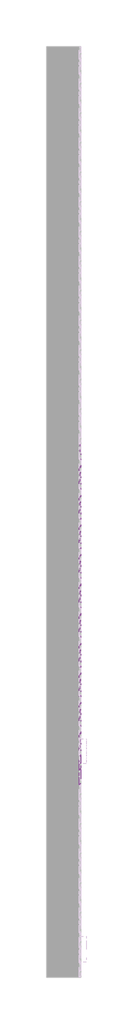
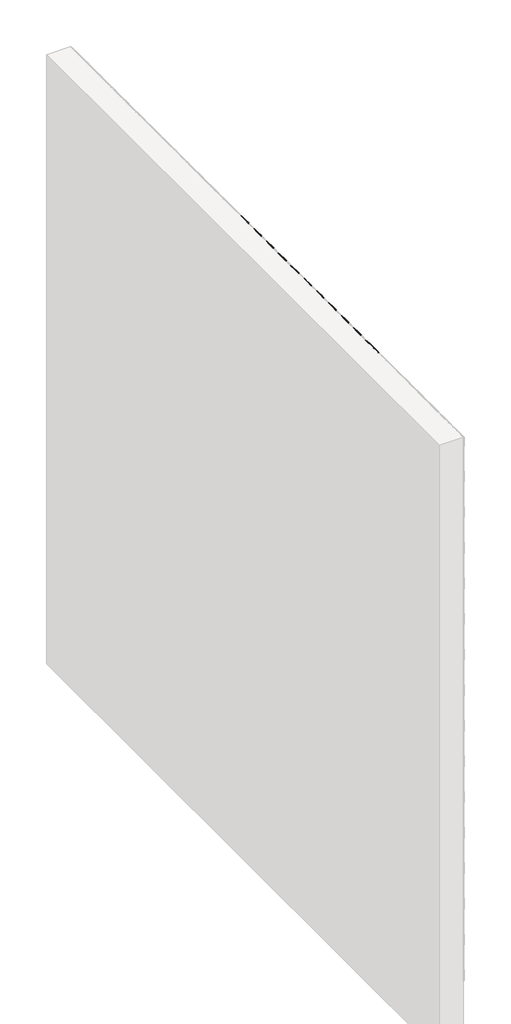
# One storey, part 61 of 121: 144 proxies.
"""IFC4 building model written with IfcOpenShell, lengths in millimetres."""

from ifc_helpers import new_model, si_unit, origin, place, context, project, spatial, transform, mapped, element, save
from components import generic_models_b2b2c5c1, generic_models_9bf73f6f, generic_models_5d175859, generic_models_65d4feed, generic_models_3c364290, generic_models_b652511d

model = new_model("IFC4")

# Units and contexts
model_context = context("Model", 3, world=origin())
ifc_project = project(units=[si_unit("LENGTHUNIT", "METRE", prefix="MILLI")], contexts=[model_context])

# Site, building, storey
site = spatial("IfcSite", under=ifc_project)
building = spatial("IfcBuilding", under=site)
storey = spatial("IfcBuildingStorey", under=building, Name="PORTOBELLO - SHOWROOM", Elevation=0.0)

# Proxies
placement = place(None, origin())
generic_models_shape = generic_models_b2b2c5c1(model_context)
element("IfcBuildingElementProxy", 1, Name="PBSHOP - CUBICA NUDE 4,8X8,3 : CUBICA NUDE - POSIÇÃO 01", ObjectType="PBSHOP - CUBICA NUDE 4,8X8,3 : CUBICA NUDE - POSIÇÃO 01", at=placement, inside=storey, context=model_context, shape_type="MappedRepresentation", body=[
    mapped(generic_models_shape, transform((150369.5341846, 7577.4582457, 2407.461318), x_axis=(0.0, 1.0, 0.0), y_axis=(0.0, 0.0, 1.0), z_axis=(1.0, 0.0, 0.0))),
])
element("IfcBuildingElementProxy", 2, Name="PBSHOP - CUBICA NUDE 4,8X8,3 : CUBICA NUDE - POSIÇÃO 01", ObjectType="PBSHOP - CUBICA NUDE 4,8X8,3 : CUBICA NUDE - POSIÇÃO 01", at=placement, inside=storey, context=model_context, shape_type="MappedRepresentation", body=[
    mapped(generic_models_shape, transform((150369.5341846, 7668.297515, 2407.461318), x_axis=(0.0, 1.0, 0.0), y_axis=(0.0, 0.0, 1.0), z_axis=(1.0, 0.0, 0.0))),
])
element("IfcBuildingElementProxy", 3, Name="PBSHOP - CUBICA NUDE 4,8X8,3 : CUBICA NUDE - POSIÇÃO 01", ObjectType="PBSHOP - CUBICA NUDE 4,8X8,3 : CUBICA NUDE - POSIÇÃO 01", at=placement, inside=storey, context=model_context, shape_type="MappedRepresentation", body=[
    mapped(generic_models_shape, transform((150369.5341846, 7759.1367842, 2407.461318), x_axis=(0.0, 1.0, 0.0), y_axis=(0.0, 0.0, 1.0), z_axis=(1.0, 0.0, 0.0))),
])
element("IfcBuildingElementProxy", 4, Name="PBSHOP - CUBICA NUDE 4,8X8,3 : CUBICA NUDE - POSIÇÃO 01", ObjectType="PBSHOP - CUBICA NUDE 4,8X8,3 : CUBICA NUDE - POSIÇÃO 01", at=placement, inside=storey, context=model_context, shape_type="MappedRepresentation", body=[
    mapped(generic_models_shape, transform((150369.5341846, 7849.9760535, 2407.461318), x_axis=(0.0, 1.0, 0.0), y_axis=(0.0, 0.0, 1.0), z_axis=(1.0, 0.0, 0.0))),
])
element("IfcBuildingElementProxy", 5, Name="PBSHOP - CUBICA NUDE 4,8X8,3 : CUBICA NUDE - POSIÇÃO 01", ObjectType="PBSHOP - CUBICA NUDE 4,8X8,3 : CUBICA NUDE - POSIÇÃO 01", at=placement, inside=storey, context=model_context, shape_type="MappedRepresentation", body=[
    mapped(generic_models_shape, transform((150369.5341846, 7940.8153227, 2407.461318), x_axis=(0.0, 1.0, 0.0), y_axis=(0.0, 0.0, 1.0), z_axis=(1.0, 0.0, 0.0))),
])
element("IfcBuildingElementProxy", 6, Name="PBSHOP - CUBICA NUDE 4,8X8,3 : CUBICA NUDE - POSIÇÃO 01", ObjectType="PBSHOP - CUBICA NUDE 4,8X8,3 : CUBICA NUDE - POSIÇÃO 01", at=placement, inside=storey, context=model_context, shape_type="MappedRepresentation", body=[
    mapped(generic_models_shape, transform((150369.5341846, 7077.8422649, 2486.3959564), x_axis=(0.0, 1.0, 0.0), y_axis=(0.0, 0.0, 1.0), z_axis=(1.0, 0.0, 0.0))),
])
element("IfcBuildingElementProxy", 7, Name="PBSHOP - CUBICA NUDE 4,8X8,3 : CUBICA NUDE - POSIÇÃO 01", ObjectType="PBSHOP - CUBICA NUDE 4,8X8,3 : CUBICA NUDE - POSIÇÃO 01", at=placement, inside=storey, context=model_context, shape_type="MappedRepresentation", body=[
    mapped(generic_models_shape, transform((150369.5341846, 7168.6815341, 2486.3959564), x_axis=(0.0, 1.0, 0.0), y_axis=(0.0, 0.0, 1.0), z_axis=(1.0, 0.0, 0.0))),
])
element("IfcBuildingElementProxy", 8, Name="PBSHOP - CUBICA NUDE 4,8X8,3 : CUBICA NUDE - POSIÇÃO 01", ObjectType="PBSHOP - CUBICA NUDE 4,8X8,3 : CUBICA NUDE - POSIÇÃO 01", at=placement, inside=storey, context=model_context, shape_type="MappedRepresentation", body=[
    mapped(generic_models_shape, transform((150369.5341846, 7259.5208034, 2486.3959564), x_axis=(0.0, 1.0, 0.0), y_axis=(0.0, 0.0, 1.0), z_axis=(1.0, 0.0, 0.0))),
])
element("IfcBuildingElementProxy", 9, Name="PBSHOP - CUBICA NUDE 4,8X8,3 : CUBICA NUDE - POSIÇÃO 01", ObjectType="PBSHOP - CUBICA NUDE 4,8X8,3 : CUBICA NUDE - POSIÇÃO 01", at=placement, inside=storey, context=model_context, shape_type="MappedRepresentation", body=[
    mapped(generic_models_shape, transform((150369.5341846, 7350.3600726, 2486.3959564), x_axis=(0.0, 1.0, 0.0), y_axis=(0.0, 0.0, 1.0), z_axis=(1.0, 0.0, 0.0))),
])
element("IfcBuildingElementProxy", 10, Name="PBSHOP - CUBICA NUDE 4,8X8,3 : CUBICA NUDE - POSIÇÃO 01", ObjectType="PBSHOP - CUBICA NUDE 4,8X8,3 : CUBICA NUDE - POSIÇÃO 01", at=placement, inside=storey, context=model_context, shape_type="MappedRepresentation", body=[
    mapped(generic_models_shape, transform((150369.5341846, 7441.1993419, 2486.3959564), x_axis=(0.0, 1.0, 0.0), y_axis=(0.0, 0.0, 1.0), z_axis=(1.0, 0.0, 0.0))),
])
element("IfcBuildingElementProxy", 11, Name="PBSHOP - CUBICA NUDE 4,8X8,3 : CUBICA NUDE - POSIÇÃO 01", ObjectType="PBSHOP - CUBICA NUDE 4,8X8,3 : CUBICA NUDE - POSIÇÃO 01", at=placement, inside=storey, context=model_context, shape_type="MappedRepresentation", body=[
    mapped(generic_models_shape, transform((150369.5341846, 7532.0386111, 2486.3959564), x_axis=(0.0, 1.0, 0.0), y_axis=(0.0, 0.0, 1.0), z_axis=(1.0, 0.0, 0.0))),
])
element("IfcBuildingElementProxy", 12, Name="PBSHOP - CUBICA NUDE 4,8X8,3 : CUBICA NUDE - POSIÇÃO 01", ObjectType="PBSHOP - CUBICA NUDE 4,8X8,3 : CUBICA NUDE - POSIÇÃO 01", at=placement, inside=storey, context=model_context, shape_type="MappedRepresentation", body=[
    mapped(generic_models_shape, transform((150369.5341846, 7622.8778804, 2486.3959564), x_axis=(0.0, 1.0, 0.0), y_axis=(0.0, 0.0, 1.0), z_axis=(1.0, 0.0, 0.0))),
])
element("IfcBuildingElementProxy", 13, Name="PBSHOP - CUBICA NUDE 4,8X8,3 : CUBICA NUDE - POSIÇÃO 01", ObjectType="PBSHOP - CUBICA NUDE 4,8X8,3 : CUBICA NUDE - POSIÇÃO 01", at=placement, inside=storey, context=model_context, shape_type="MappedRepresentation", body=[
    mapped(generic_models_shape, transform((150369.5341846, 7713.7171496, 2486.3959564), x_axis=(0.0, 1.0, 0.0), y_axis=(0.0, 0.0, 1.0), z_axis=(1.0, 0.0, 0.0))),
])
element("IfcBuildingElementProxy", 14, Name="PBSHOP - CUBICA NUDE 4,8X8,3 : CUBICA NUDE - POSIÇÃO 01", ObjectType="PBSHOP - CUBICA NUDE 4,8X8,3 : CUBICA NUDE - POSIÇÃO 01", at=placement, inside=storey, context=model_context, shape_type="MappedRepresentation", body=[
    mapped(generic_models_shape, transform((150369.5341846, 7804.5564189, 2486.3959564), x_axis=(0.0, 1.0, 0.0), y_axis=(0.0, 0.0, 1.0), z_axis=(1.0, 0.0, 0.0))),
])
element("IfcBuildingElementProxy", 15, Name="PBSHOP - CUBICA NUDE 4,8X8,3 : CUBICA NUDE - POSIÇÃO 01", ObjectType="PBSHOP - CUBICA NUDE 4,8X8,3 : CUBICA NUDE - POSIÇÃO 01", at=placement, inside=storey, context=model_context, shape_type="MappedRepresentation", body=[
    mapped(generic_models_shape, transform((150369.5341846, 7895.3956881, 2486.3959564), x_axis=(0.0, 1.0, 0.0), y_axis=(0.0, 0.0, 1.0), z_axis=(1.0, 0.0, 0.0))),
])
element("IfcBuildingElementProxy", 16, Name="PBSHOP - CUBICA NUDE 4,8X8,3 : CUBICA NUDE - POSIÇÃO 01", ObjectType="PBSHOP - CUBICA NUDE 4,8X8,3 : CUBICA NUDE - POSIÇÃO 01", at=placement, inside=storey, context=model_context, shape_type="MappedRepresentation", body=[
    mapped(generic_models_shape, transform((150369.5341846, 7986.2349573, 2486.3959564), x_axis=(0.0, 1.0, 0.0), y_axis=(0.0, 0.0, 1.0), z_axis=(1.0, 0.0, 0.0))),
])
element("IfcBuildingElementProxy", 17, Name="PBSHOP - CUBICA NUDE 4,8X8,3 : CUBICA NUDE - POSIÇÃO 01", ObjectType="PBSHOP - CUBICA NUDE 4,8X8,3 : CUBICA NUDE - POSIÇÃO 01", at=placement, inside=storey, context=model_context, shape_type="MappedRepresentation", body=[
    mapped(generic_models_shape, transform((150369.5341846, 7032.4226303, 2565.3305948), x_axis=(0.0, 1.0, 0.0), y_axis=(0.0, 0.0, 1.0), z_axis=(1.0, 0.0, 0.0))),
])
element("IfcBuildingElementProxy", 18, Name="PBSHOP - CUBICA NUDE 4,8X8,3 : CUBICA NUDE - POSIÇÃO 01", ObjectType="PBSHOP - CUBICA NUDE 4,8X8,3 : CUBICA NUDE - POSIÇÃO 01", at=placement, inside=storey, context=model_context, shape_type="MappedRepresentation", body=[
    mapped(generic_models_shape, transform((150369.5341846, 7123.2618995, 2565.3305948), x_axis=(0.0, 1.0, 0.0), y_axis=(0.0, 0.0, 1.0), z_axis=(1.0, 0.0, 0.0))),
])
element("IfcBuildingElementProxy", 19, Name="PBSHOP - CUBICA NUDE 4,8X8,3 : CUBICA NUDE - POSIÇÃO 01", ObjectType="PBSHOP - CUBICA NUDE 4,8X8,3 : CUBICA NUDE - POSIÇÃO 01", at=placement, inside=storey, context=model_context, shape_type="MappedRepresentation", body=[
    mapped(generic_models_shape, transform((150369.5341846, 7214.1011688, 2565.3305948), x_axis=(0.0, 1.0, 0.0), y_axis=(0.0, 0.0, 1.0), z_axis=(1.0, 0.0, 0.0))),
])
element("IfcBuildingElementProxy", 20, Name="PBSHOP - CUBICA NUDE 4,8X8,3 : CUBICA NUDE - POSIÇÃO 01", ObjectType="PBSHOP - CUBICA NUDE 4,8X8,3 : CUBICA NUDE - POSIÇÃO 01", at=placement, inside=storey, context=model_context, shape_type="MappedRepresentation", body=[
    mapped(generic_models_shape, transform((150369.5341846, 7304.940438, 2565.3305948), x_axis=(0.0, 1.0, 0.0), y_axis=(0.0, 0.0, 1.0), z_axis=(1.0, 0.0, 0.0))),
])
element("IfcBuildingElementProxy", 21, Name="PBSHOP - CUBICA NUDE 4,8X8,3 : CUBICA NUDE - POSIÇÃO 01", ObjectType="PBSHOP - CUBICA NUDE 4,8X8,3 : CUBICA NUDE - POSIÇÃO 01", at=placement, inside=storey, context=model_context, shape_type="MappedRepresentation", body=[
    mapped(generic_models_shape, transform((150369.5341846, 7395.7797073, 2565.3305948), x_axis=(0.0, 1.0, 0.0), y_axis=(0.0, 0.0, 1.0), z_axis=(1.0, 0.0, 0.0))),
])
element("IfcBuildingElementProxy", 22, Name="PBSHOP - CUBICA NUDE 4,8X8,3 : CUBICA NUDE - POSIÇÃO 01", ObjectType="PBSHOP - CUBICA NUDE 4,8X8,3 : CUBICA NUDE - POSIÇÃO 01", at=placement, inside=storey, context=model_context, shape_type="MappedRepresentation", body=[
    mapped(generic_models_shape, transform((150369.5341846, 7486.6189765, 2565.3305948), x_axis=(0.0, 1.0, 0.0), y_axis=(0.0, 0.0, 1.0), z_axis=(1.0, 0.0, 0.0))),
])
element("IfcBuildingElementProxy", 23, Name="PBSHOP - CUBICA NUDE 4,8X8,3 : CUBICA NUDE - POSIÇÃO 01", ObjectType="PBSHOP - CUBICA NUDE 4,8X8,3 : CUBICA NUDE - POSIÇÃO 01", at=placement, inside=storey, context=model_context, shape_type="MappedRepresentation", body=[
    mapped(generic_models_shape, transform((150369.5341846, 7577.4582457, 2565.3305948), x_axis=(0.0, 1.0, 0.0), y_axis=(0.0, 0.0, 1.0), z_axis=(1.0, 0.0, 0.0))),
])
element("IfcBuildingElementProxy", 24, Name="PBSHOP - CUBICA NUDE 4,8X8,3 : CUBICA NUDE - POSIÇÃO 01", ObjectType="PBSHOP - CUBICA NUDE 4,8X8,3 : CUBICA NUDE - POSIÇÃO 01", at=placement, inside=storey, context=model_context, shape_type="MappedRepresentation", body=[
    mapped(generic_models_shape, transform((150369.5341846, 7668.297515, 2565.3305948), x_axis=(0.0, 1.0, 0.0), y_axis=(0.0, 0.0, 1.0), z_axis=(1.0, 0.0, 0.0))),
])
element("IfcBuildingElementProxy", 25, Name="PBSHOP - CUBICA NUDE 4,8X8,3 : CUBICA NUDE - POSIÇÃO 01", ObjectType="PBSHOP - CUBICA NUDE 4,8X8,3 : CUBICA NUDE - POSIÇÃO 01", at=placement, inside=storey, context=model_context, shape_type="MappedRepresentation", body=[
    mapped(generic_models_shape, transform((150369.5341846, 7759.1367842, 2565.3305948), x_axis=(0.0, 1.0, 0.0), y_axis=(0.0, 0.0, 1.0), z_axis=(1.0, 0.0, 0.0))),
])
element("IfcBuildingElementProxy", 26, Name="PBSHOP - CUBICA NUDE 4,8X8,3 : CUBICA NUDE - POSIÇÃO 01", ObjectType="PBSHOP - CUBICA NUDE 4,8X8,3 : CUBICA NUDE - POSIÇÃO 01", at=placement, inside=storey, context=model_context, shape_type="MappedRepresentation", body=[
    mapped(generic_models_shape, transform((150369.5341846, 7849.9760535, 2565.3305948), x_axis=(0.0, 1.0, 0.0), y_axis=(0.0, 0.0, 1.0), z_axis=(1.0, 0.0, 0.0))),
])
element("IfcBuildingElementProxy", 27, Name="PBSHOP - CUBICA NUDE 4,8X8,3 : CUBICA NUDE - POSIÇÃO 01", ObjectType="PBSHOP - CUBICA NUDE 4,8X8,3 : CUBICA NUDE - POSIÇÃO 01", at=placement, inside=storey, context=model_context, shape_type="MappedRepresentation", body=[
    mapped(generic_models_shape, transform((150369.5341846, 7940.8153227, 2565.3305948), x_axis=(0.0, 1.0, 0.0), y_axis=(0.0, 0.0, 1.0), z_axis=(1.0, 0.0, 0.0))),
])
element("IfcBuildingElementProxy", 28, Name="PBSHOP - CUBICA NUDE 4,8X8,3 : CUBICA NUDE - POSIÇÃO 01", ObjectType="PBSHOP - CUBICA NUDE 4,8X8,3 : CUBICA NUDE - POSIÇÃO 01", at=placement, inside=storey, context=model_context, shape_type="MappedRepresentation", body=[
    mapped(generic_models_shape, transform((150369.5341846, 7077.8422649, 2644.2652332), x_axis=(0.0, 1.0, 0.0), y_axis=(0.0, 0.0, 1.0), z_axis=(1.0, 0.0, 0.0))),
])
element("IfcBuildingElementProxy", 29, Name="PBSHOP - CUBICA NUDE 4,8X8,3 : CUBICA NUDE - POSIÇÃO 01", ObjectType="PBSHOP - CUBICA NUDE 4,8X8,3 : CUBICA NUDE - POSIÇÃO 01", at=placement, inside=storey, context=model_context, shape_type="MappedRepresentation", body=[
    mapped(generic_models_shape, transform((150369.5341846, 7168.6815341, 2644.2652332), x_axis=(0.0, 1.0, 0.0), y_axis=(0.0, 0.0, 1.0), z_axis=(1.0, 0.0, 0.0))),
])
element("IfcBuildingElementProxy", 30, Name="PBSHOP - CUBICA NUDE 4,8X8,3 : CUBICA NUDE - POSIÇÃO 01", ObjectType="PBSHOP - CUBICA NUDE 4,8X8,3 : CUBICA NUDE - POSIÇÃO 01", at=placement, inside=storey, context=model_context, shape_type="MappedRepresentation", body=[
    mapped(generic_models_shape, transform((150369.5341846, 7259.5208034, 2644.2652332), x_axis=(0.0, 1.0, 0.0), y_axis=(0.0, 0.0, 1.0), z_axis=(1.0, 0.0, 0.0))),
])
element("IfcBuildingElementProxy", 31, Name="PBSHOP - CUBICA NUDE 4,8X8,3 : CUBICA NUDE - POSIÇÃO 01", ObjectType="PBSHOP - CUBICA NUDE 4,8X8,3 : CUBICA NUDE - POSIÇÃO 01", at=placement, inside=storey, context=model_context, shape_type="MappedRepresentation", body=[
    mapped(generic_models_shape, transform((150369.5341846, 7350.3600726, 2644.2652332), x_axis=(0.0, 1.0, 0.0), y_axis=(0.0, 0.0, 1.0), z_axis=(1.0, 0.0, 0.0))),
])
element("IfcBuildingElementProxy", 32, Name="PBSHOP - CUBICA NUDE 4,8X8,3 : CUBICA NUDE - POSIÇÃO 01", ObjectType="PBSHOP - CUBICA NUDE 4,8X8,3 : CUBICA NUDE - POSIÇÃO 01", at=placement, inside=storey, context=model_context, shape_type="MappedRepresentation", body=[
    mapped(generic_models_shape, transform((150369.5341846, 7441.1993419, 2644.2652332), x_axis=(0.0, 1.0, 0.0), y_axis=(0.0, 0.0, 1.0), z_axis=(1.0, 0.0, 0.0))),
])
element("IfcBuildingElementProxy", 33, Name="PBSHOP - CUBICA NUDE 4,8X8,3 : CUBICA NUDE - POSIÇÃO 01", ObjectType="PBSHOP - CUBICA NUDE 4,8X8,3 : CUBICA NUDE - POSIÇÃO 01", at=placement, inside=storey, context=model_context, shape_type="MappedRepresentation", body=[
    mapped(generic_models_shape, transform((150369.5341846, 7532.0386111, 2644.2652332), x_axis=(0.0, 1.0, 0.0), y_axis=(0.0, 0.0, 1.0), z_axis=(1.0, 0.0, 0.0))),
])
element("IfcBuildingElementProxy", 34, Name="PBSHOP - CUBICA NUDE 4,8X8,3 : CUBICA NUDE - POSIÇÃO 01", ObjectType="PBSHOP - CUBICA NUDE 4,8X8,3 : CUBICA NUDE - POSIÇÃO 01", at=placement, inside=storey, context=model_context, shape_type="MappedRepresentation", body=[
    mapped(generic_models_shape, transform((150369.5341846, 7622.8778804, 2644.2652332), x_axis=(0.0, 1.0, 0.0), y_axis=(0.0, 0.0, 1.0), z_axis=(1.0, 0.0, 0.0))),
])
element("IfcBuildingElementProxy", 35, Name="PBSHOP - CUBICA NUDE 4,8X8,3 : CUBICA NUDE - POSIÇÃO 01", ObjectType="PBSHOP - CUBICA NUDE 4,8X8,3 : CUBICA NUDE - POSIÇÃO 01", at=placement, inside=storey, context=model_context, shape_type="MappedRepresentation", body=[
    mapped(generic_models_shape, transform((150369.5341846, 7713.7171496, 2644.2652332), x_axis=(0.0, 1.0, 0.0), y_axis=(0.0, 0.0, 1.0), z_axis=(1.0, 0.0, 0.0))),
])
element("IfcBuildingElementProxy", 36, Name="PBSHOP - CUBICA NUDE 4,8X8,3 : CUBICA NUDE - POSIÇÃO 01", ObjectType="PBSHOP - CUBICA NUDE 4,8X8,3 : CUBICA NUDE - POSIÇÃO 01", at=placement, inside=storey, context=model_context, shape_type="MappedRepresentation", body=[
    mapped(generic_models_shape, transform((150369.5341846, 7804.5564189, 2644.2652332), x_axis=(0.0, 1.0, 0.0), y_axis=(0.0, 0.0, 1.0), z_axis=(1.0, 0.0, 0.0))),
])
element("IfcBuildingElementProxy", 37, Name="PBSHOP - CUBICA NUDE 4,8X8,3 : CUBICA NUDE - POSIÇÃO 01", ObjectType="PBSHOP - CUBICA NUDE 4,8X8,3 : CUBICA NUDE - POSIÇÃO 01", at=placement, inside=storey, context=model_context, shape_type="MappedRepresentation", body=[
    mapped(generic_models_shape, transform((150369.5341846, 7895.3956881, 2644.2652332), x_axis=(0.0, 1.0, 0.0), y_axis=(0.0, 0.0, 1.0), z_axis=(1.0, 0.0, 0.0))),
])
element("IfcBuildingElementProxy", 38, Name="PBSHOP - CUBICA NUDE 4,8X8,3 : CUBICA NUDE - POSIÇÃO 01", ObjectType="PBSHOP - CUBICA NUDE 4,8X8,3 : CUBICA NUDE - POSIÇÃO 01", at=placement, inside=storey, context=model_context, shape_type="MappedRepresentation", body=[
    mapped(generic_models_shape, transform((150369.5341846, 7986.2349573, 2644.2652332), x_axis=(0.0, 1.0, 0.0), y_axis=(0.0, 0.0, 1.0), z_axis=(1.0, 0.0, 0.0))),
])
generic_models_2_shape = generic_models_9bf73f6f(model_context)
element("IfcBuildingElementProxy", 39, Name="PBSHOP - CUBICA NUDE 4,8X8,3 : CUBICA NUDE - POSIÇÃO 03", ObjectType="PBSHOP - CUBICA NUDE 4,8X8,3 : CUBICA NUDE - POSIÇÃO 03", at=placement, inside=storey, context=model_context, shape_type="MappedRepresentation", body=[
    mapped(generic_models_2_shape, transform((150369.5341846, 7009.7149721, 2367.9527884), x_axis=(0.0, 1.0, 0.0), y_axis=(0.0, 0.0, 1.0), z_axis=(1.0, 0.0, 0.0))),
])
element("IfcBuildingElementProxy", 40, Name="PBSHOP - CUBICA NUDE 4,8X8,3 : CUBICA NUDE - POSIÇÃO 03", ObjectType="PBSHOP - CUBICA NUDE 4,8X8,3 : CUBICA NUDE - POSIÇÃO 03", at=placement, inside=storey, context=model_context, shape_type="MappedRepresentation", body=[
    mapped(generic_models_2_shape, transform((150369.5341846, 7100.5542414, 2367.9527884), x_axis=(0.0, 1.0, 0.0), y_axis=(0.0, 0.0, 1.0), z_axis=(1.0, 0.0, 0.0))),
])
element("IfcBuildingElementProxy", 41, Name="PBSHOP - CUBICA NUDE 4,8X8,3 : CUBICA NUDE - POSIÇÃO 03", ObjectType="PBSHOP - CUBICA NUDE 4,8X8,3 : CUBICA NUDE - POSIÇÃO 03", at=placement, inside=storey, context=model_context, shape_type="MappedRepresentation", body=[
    mapped(generic_models_2_shape, transform((150369.5341846, 7191.3935106, 2367.9527884), x_axis=(0.0, 1.0, 0.0), y_axis=(0.0, 0.0, 1.0), z_axis=(1.0, 0.0, 0.0))),
])
element("IfcBuildingElementProxy", 42, Name="PBSHOP - CUBICA NUDE 4,8X8,3 : CUBICA NUDE - POSIÇÃO 03", ObjectType="PBSHOP - CUBICA NUDE 4,8X8,3 : CUBICA NUDE - POSIÇÃO 03", at=placement, inside=storey, context=model_context, shape_type="MappedRepresentation", body=[
    mapped(generic_models_2_shape, transform((150369.5341846, 7282.2327799, 2367.9527884), x_axis=(0.0, 1.0, 0.0), y_axis=(0.0, 0.0, 1.0), z_axis=(1.0, 0.0, 0.0))),
])
element("IfcBuildingElementProxy", 43, Name="PBSHOP - CUBICA NUDE 4,8X8,3 : CUBICA NUDE - POSIÇÃO 03", ObjectType="PBSHOP - CUBICA NUDE 4,8X8,3 : CUBICA NUDE - POSIÇÃO 03", at=placement, inside=storey, context=model_context, shape_type="MappedRepresentation", body=[
    mapped(generic_models_2_shape, transform((150369.5341846, 7373.0720491, 2367.9527884), x_axis=(0.0, 1.0, 0.0), y_axis=(0.0, 0.0, 1.0), z_axis=(1.0, 0.0, 0.0))),
])
element("IfcBuildingElementProxy", 44, Name="PBSHOP - CUBICA NUDE 4,8X8,3 : CUBICA NUDE - POSIÇÃO 03", ObjectType="PBSHOP - CUBICA NUDE 4,8X8,3 : CUBICA NUDE - POSIÇÃO 03", at=placement, inside=storey, context=model_context, shape_type="MappedRepresentation", body=[
    mapped(generic_models_2_shape, transform((150369.5341846, 7463.9113184, 2367.9527884), x_axis=(0.0, 1.0, 0.0), y_axis=(0.0, 0.0, 1.0), z_axis=(1.0, 0.0, 0.0))),
])
element("IfcBuildingElementProxy", 45, Name="PBSHOP - CUBICA NUDE 4,8X8,3 : CUBICA NUDE - POSIÇÃO 03", ObjectType="PBSHOP - CUBICA NUDE 4,8X8,3 : CUBICA NUDE - POSIÇÃO 03", at=placement, inside=storey, context=model_context, shape_type="MappedRepresentation", body=[
    mapped(generic_models_2_shape, transform((150369.5341846, 7554.7505876, 2367.9527884), x_axis=(0.0, 1.0, 0.0), y_axis=(0.0, 0.0, 1.0), z_axis=(1.0, 0.0, 0.0))),
])
element("IfcBuildingElementProxy", 46, Name="PBSHOP - CUBICA NUDE 4,8X8,3 : CUBICA NUDE - POSIÇÃO 03", ObjectType="PBSHOP - CUBICA NUDE 4,8X8,3 : CUBICA NUDE - POSIÇÃO 03", at=placement, inside=storey, context=model_context, shape_type="MappedRepresentation", body=[
    mapped(generic_models_2_shape, transform((150369.5341846, 7645.5898568, 2367.9527884), x_axis=(0.0, 1.0, 0.0), y_axis=(0.0, 0.0, 1.0), z_axis=(1.0, 0.0, 0.0))),
])
element("IfcBuildingElementProxy", 47, Name="PBSHOP - CUBICA NUDE 4,8X8,3 : CUBICA NUDE - POSIÇÃO 03", ObjectType="PBSHOP - CUBICA NUDE 4,8X8,3 : CUBICA NUDE - POSIÇÃO 03", at=placement, inside=storey, context=model_context, shape_type="MappedRepresentation", body=[
    mapped(generic_models_2_shape, transform((150369.5341846, 7736.4291261, 2367.9527884), x_axis=(0.0, 1.0, 0.0), y_axis=(0.0, 0.0, 1.0), z_axis=(1.0, 0.0, 0.0))),
])
element("IfcBuildingElementProxy", 48, Name="PBSHOP - CUBICA NUDE 4,8X8,3 : CUBICA NUDE - POSIÇÃO 03", ObjectType="PBSHOP - CUBICA NUDE 4,8X8,3 : CUBICA NUDE - POSIÇÃO 03", at=placement, inside=storey, context=model_context, shape_type="MappedRepresentation", body=[
    mapped(generic_models_2_shape, transform((150369.5341846, 7827.2683953, 2367.9527884), x_axis=(0.0, 1.0, 0.0), y_axis=(0.0, 0.0, 1.0), z_axis=(1.0, 0.0, 0.0))),
])
element("IfcBuildingElementProxy", 49, Name="PBSHOP - CUBICA NUDE 4,8X8,3 : CUBICA NUDE - POSIÇÃO 03", ObjectType="PBSHOP - CUBICA NUDE 4,8X8,3 : CUBICA NUDE - POSIÇÃO 03", at=placement, inside=storey, context=model_context, shape_type="MappedRepresentation", body=[
    mapped(generic_models_2_shape, transform((150369.5341846, 7918.1076646, 2367.9527884), x_axis=(0.0, 1.0, 0.0), y_axis=(0.0, 0.0, 1.0), z_axis=(1.0, 0.0, 0.0))),
])
element("IfcBuildingElementProxy", 50, Name="PBSHOP - CUBICA NUDE 4,8X8,3 : CUBICA NUDE - POSIÇÃO 03", ObjectType="PBSHOP - CUBICA NUDE 4,8X8,3 : CUBICA NUDE - POSIÇÃO 03", at=placement, inside=storey, context=model_context, shape_type="MappedRepresentation", body=[
    mapped(generic_models_2_shape, transform((150369.5341846, 7055.1346068, 2446.8874268), x_axis=(0.0, 1.0, 0.0), y_axis=(0.0, 0.0, 1.0), z_axis=(1.0, 0.0, 0.0))),
])
element("IfcBuildingElementProxy", 51, Name="PBSHOP - CUBICA NUDE 4,8X8,3 : CUBICA NUDE - POSIÇÃO 03", ObjectType="PBSHOP - CUBICA NUDE 4,8X8,3 : CUBICA NUDE - POSIÇÃO 03", at=placement, inside=storey, context=model_context, shape_type="MappedRepresentation", body=[
    mapped(generic_models_2_shape, transform((150369.5341846, 7145.973876, 2446.8874268), x_axis=(0.0, 1.0, 0.0), y_axis=(0.0, 0.0, 1.0), z_axis=(1.0, 0.0, 0.0))),
])
element("IfcBuildingElementProxy", 52, Name="PBSHOP - CUBICA NUDE 4,8X8,3 : CUBICA NUDE - POSIÇÃO 03", ObjectType="PBSHOP - CUBICA NUDE 4,8X8,3 : CUBICA NUDE - POSIÇÃO 03", at=placement, inside=storey, context=model_context, shape_type="MappedRepresentation", body=[
    mapped(generic_models_2_shape, transform((150369.5341846, 7236.8131452, 2446.8874268), x_axis=(0.0, 1.0, 0.0), y_axis=(0.0, 0.0, 1.0), z_axis=(1.0, 0.0, 0.0))),
])
element("IfcBuildingElementProxy", 53, Name="PBSHOP - CUBICA NUDE 4,8X8,3 : CUBICA NUDE - POSIÇÃO 03", ObjectType="PBSHOP - CUBICA NUDE 4,8X8,3 : CUBICA NUDE - POSIÇÃO 03", at=placement, inside=storey, context=model_context, shape_type="MappedRepresentation", body=[
    mapped(generic_models_2_shape, transform((150369.5341846, 7327.6524145, 2446.8874268), x_axis=(0.0, 1.0, 0.0), y_axis=(0.0, 0.0, 1.0), z_axis=(1.0, 0.0, 0.0))),
])
element("IfcBuildingElementProxy", 54, Name="PBSHOP - CUBICA NUDE 4,8X8,3 : CUBICA NUDE - POSIÇÃO 03", ObjectType="PBSHOP - CUBICA NUDE 4,8X8,3 : CUBICA NUDE - POSIÇÃO 03", at=placement, inside=storey, context=model_context, shape_type="MappedRepresentation", body=[
    mapped(generic_models_2_shape, transform((150369.5341846, 7418.4916837, 2446.8874268), x_axis=(0.0, 1.0, 0.0), y_axis=(0.0, 0.0, 1.0), z_axis=(1.0, 0.0, 0.0))),
])
element("IfcBuildingElementProxy", 55, Name="PBSHOP - CUBICA NUDE 4,8X8,3 : CUBICA NUDE - POSIÇÃO 03", ObjectType="PBSHOP - CUBICA NUDE 4,8X8,3 : CUBICA NUDE - POSIÇÃO 03", at=placement, inside=storey, context=model_context, shape_type="MappedRepresentation", body=[
    mapped(generic_models_2_shape, transform((150369.5341846, 7509.330953, 2446.8874268), x_axis=(0.0, 1.0, 0.0), y_axis=(0.0, 0.0, 1.0), z_axis=(1.0, 0.0, 0.0))),
])
element("IfcBuildingElementProxy", 56, Name="PBSHOP - CUBICA NUDE 4,8X8,3 : CUBICA NUDE - POSIÇÃO 03", ObjectType="PBSHOP - CUBICA NUDE 4,8X8,3 : CUBICA NUDE - POSIÇÃO 03", at=placement, inside=storey, context=model_context, shape_type="MappedRepresentation", body=[
    mapped(generic_models_2_shape, transform((150369.5341846, 7600.1702222, 2446.8874268), x_axis=(0.0, 1.0, 0.0), y_axis=(0.0, 0.0, 1.0), z_axis=(1.0, 0.0, 0.0))),
])
element("IfcBuildingElementProxy", 57, Name="PBSHOP - CUBICA NUDE 4,8X8,3 : CUBICA NUDE - POSIÇÃO 03", ObjectType="PBSHOP - CUBICA NUDE 4,8X8,3 : CUBICA NUDE - POSIÇÃO 03", at=placement, inside=storey, context=model_context, shape_type="MappedRepresentation", body=[
    mapped(generic_models_2_shape, transform((150369.5341846, 7691.0094915, 2446.8874268), x_axis=(0.0, 1.0, 0.0), y_axis=(0.0, 0.0, 1.0), z_axis=(1.0, 0.0, 0.0))),
])
element("IfcBuildingElementProxy", 58, Name="PBSHOP - CUBICA NUDE 4,8X8,3 : CUBICA NUDE - POSIÇÃO 03", ObjectType="PBSHOP - CUBICA NUDE 4,8X8,3 : CUBICA NUDE - POSIÇÃO 03", at=placement, inside=storey, context=model_context, shape_type="MappedRepresentation", body=[
    mapped(generic_models_2_shape, transform((150369.5341846, 7781.8487607, 2446.8874268), x_axis=(0.0, 1.0, 0.0), y_axis=(0.0, 0.0, 1.0), z_axis=(1.0, 0.0, 0.0))),
])
element("IfcBuildingElementProxy", 59, Name="PBSHOP - CUBICA NUDE 4,8X8,3 : CUBICA NUDE - POSIÇÃO 03", ObjectType="PBSHOP - CUBICA NUDE 4,8X8,3 : CUBICA NUDE - POSIÇÃO 03", at=placement, inside=storey, context=model_context, shape_type="MappedRepresentation", body=[
    mapped(generic_models_2_shape, transform((150369.5341846, 7872.6880299, 2446.8874268), x_axis=(0.0, 1.0, 0.0), y_axis=(0.0, 0.0, 1.0), z_axis=(1.0, 0.0, 0.0))),
])
element("IfcBuildingElementProxy", 60, Name="PBSHOP - CUBICA NUDE 4,8X8,3 : CUBICA NUDE - POSIÇÃO 03", ObjectType="PBSHOP - CUBICA NUDE 4,8X8,3 : CUBICA NUDE - POSIÇÃO 03", at=placement, inside=storey, context=model_context, shape_type="MappedRepresentation", body=[
    mapped(generic_models_2_shape, transform((150369.5341846, 7963.5272992, 2446.8874268), x_axis=(0.0, 1.0, 0.0), y_axis=(0.0, 0.0, 1.0), z_axis=(1.0, 0.0, 0.0))),
])
element("IfcBuildingElementProxy", 61, Name="PBSHOP - CUBICA NUDE 4,8X8,3 : CUBICA NUDE - POSIÇÃO 03", ObjectType="PBSHOP - CUBICA NUDE 4,8X8,3 : CUBICA NUDE - POSIÇÃO 03", at=placement, inside=storey, context=model_context, shape_type="MappedRepresentation", body=[
    mapped(generic_models_2_shape, transform((150369.5341846, 7009.7149721, 2525.8220652), x_axis=(0.0, 1.0, 0.0), y_axis=(0.0, 0.0, 1.0), z_axis=(1.0, 0.0, 0.0))),
])
element("IfcBuildingElementProxy", 62, Name="PBSHOP - CUBICA NUDE 4,8X8,3 : CUBICA NUDE - POSIÇÃO 03", ObjectType="PBSHOP - CUBICA NUDE 4,8X8,3 : CUBICA NUDE - POSIÇÃO 03", at=placement, inside=storey, context=model_context, shape_type="MappedRepresentation", body=[
    mapped(generic_models_2_shape, transform((150369.5341846, 7100.5542414, 2525.8220652), x_axis=(0.0, 1.0, 0.0), y_axis=(0.0, 0.0, 1.0), z_axis=(1.0, 0.0, 0.0))),
])
element("IfcBuildingElementProxy", 63, Name="PBSHOP - CUBICA NUDE 4,8X8,3 : CUBICA NUDE - POSIÇÃO 03", ObjectType="PBSHOP - CUBICA NUDE 4,8X8,3 : CUBICA NUDE - POSIÇÃO 03", at=placement, inside=storey, context=model_context, shape_type="MappedRepresentation", body=[
    mapped(generic_models_2_shape, transform((150369.5341846, 7191.3935106, 2525.8220652), x_axis=(0.0, 1.0, 0.0), y_axis=(0.0, 0.0, 1.0), z_axis=(1.0, 0.0, 0.0))),
])
element("IfcBuildingElementProxy", 64, Name="PBSHOP - CUBICA NUDE 4,8X8,3 : CUBICA NUDE - POSIÇÃO 03", ObjectType="PBSHOP - CUBICA NUDE 4,8X8,3 : CUBICA NUDE - POSIÇÃO 03", at=placement, inside=storey, context=model_context, shape_type="MappedRepresentation", body=[
    mapped(generic_models_2_shape, transform((150369.5341846, 7282.2327799, 2525.8220652), x_axis=(0.0, 1.0, 0.0), y_axis=(0.0, 0.0, 1.0), z_axis=(1.0, 0.0, 0.0))),
])
element("IfcBuildingElementProxy", 65, Name="PBSHOP - CUBICA NUDE 4,8X8,3 : CUBICA NUDE - POSIÇÃO 03", ObjectType="PBSHOP - CUBICA NUDE 4,8X8,3 : CUBICA NUDE - POSIÇÃO 03", at=placement, inside=storey, context=model_context, shape_type="MappedRepresentation", body=[
    mapped(generic_models_2_shape, transform((150369.5341846, 7373.0720491, 2525.8220652), x_axis=(0.0, 1.0, 0.0), y_axis=(0.0, 0.0, 1.0), z_axis=(1.0, 0.0, 0.0))),
])
element("IfcBuildingElementProxy", 66, Name="PBSHOP - CUBICA NUDE 4,8X8,3 : CUBICA NUDE - POSIÇÃO 03", ObjectType="PBSHOP - CUBICA NUDE 4,8X8,3 : CUBICA NUDE - POSIÇÃO 03", at=placement, inside=storey, context=model_context, shape_type="MappedRepresentation", body=[
    mapped(generic_models_2_shape, transform((150369.5341846, 7463.9113184, 2525.8220652), x_axis=(0.0, 1.0, 0.0), y_axis=(0.0, 0.0, 1.0), z_axis=(1.0, 0.0, 0.0))),
])
element("IfcBuildingElementProxy", 67, Name="PBSHOP - CUBICA NUDE 4,8X8,3 : CUBICA NUDE - POSIÇÃO 03", ObjectType="PBSHOP - CUBICA NUDE 4,8X8,3 : CUBICA NUDE - POSIÇÃO 03", at=placement, inside=storey, context=model_context, shape_type="MappedRepresentation", body=[
    mapped(generic_models_2_shape, transform((150369.5341846, 7554.7505876, 2525.8220652), x_axis=(0.0, 1.0, 0.0), y_axis=(0.0, 0.0, 1.0), z_axis=(1.0, 0.0, 0.0))),
])
element("IfcBuildingElementProxy", 68, Name="PBSHOP - CUBICA NUDE 4,8X8,3 : CUBICA NUDE - POSIÇÃO 03", ObjectType="PBSHOP - CUBICA NUDE 4,8X8,3 : CUBICA NUDE - POSIÇÃO 03", at=placement, inside=storey, context=model_context, shape_type="MappedRepresentation", body=[
    mapped(generic_models_2_shape, transform((150369.5341846, 7645.5898568, 2525.8220652), x_axis=(0.0, 1.0, 0.0), y_axis=(0.0, 0.0, 1.0), z_axis=(1.0, 0.0, 0.0))),
])
element("IfcBuildingElementProxy", 69, Name="PBSHOP - CUBICA NUDE 4,8X8,3 : CUBICA NUDE - POSIÇÃO 03", ObjectType="PBSHOP - CUBICA NUDE 4,8X8,3 : CUBICA NUDE - POSIÇÃO 03", at=placement, inside=storey, context=model_context, shape_type="MappedRepresentation", body=[
    mapped(generic_models_2_shape, transform((150369.5341846, 7736.4291261, 2525.8220652), x_axis=(0.0, 1.0, 0.0), y_axis=(0.0, 0.0, 1.0), z_axis=(1.0, 0.0, 0.0))),
])
element("IfcBuildingElementProxy", 70, Name="PBSHOP - CUBICA NUDE 4,8X8,3 : CUBICA NUDE - POSIÇÃO 03", ObjectType="PBSHOP - CUBICA NUDE 4,8X8,3 : CUBICA NUDE - POSIÇÃO 03", at=placement, inside=storey, context=model_context, shape_type="MappedRepresentation", body=[
    mapped(generic_models_2_shape, transform((150369.5341846, 7827.2683953, 2525.8220652), x_axis=(0.0, 1.0, 0.0), y_axis=(0.0, 0.0, 1.0), z_axis=(1.0, 0.0, 0.0))),
])
element("IfcBuildingElementProxy", 71, Name="PBSHOP - CUBICA NUDE 4,8X8,3 : CUBICA NUDE - POSIÇÃO 03", ObjectType="PBSHOP - CUBICA NUDE 4,8X8,3 : CUBICA NUDE - POSIÇÃO 03", at=placement, inside=storey, context=model_context, shape_type="MappedRepresentation", body=[
    mapped(generic_models_2_shape, transform((150369.5341846, 7918.1076646, 2525.8220652), x_axis=(0.0, 1.0, 0.0), y_axis=(0.0, 0.0, 1.0), z_axis=(1.0, 0.0, 0.0))),
])
element("IfcBuildingElementProxy", 72, Name="PBSHOP - CUBICA NUDE 4,8X8,3 : CUBICA NUDE - POSIÇÃO 03", ObjectType="PBSHOP - CUBICA NUDE 4,8X8,3 : CUBICA NUDE - POSIÇÃO 03", at=placement, inside=storey, context=model_context, shape_type="MappedRepresentation", body=[
    mapped(generic_models_2_shape, transform((150369.5341846, 7055.1346068, 2604.7567035), x_axis=(0.0, 1.0, 0.0), y_axis=(0.0, 0.0, 1.0), z_axis=(1.0, 0.0, 0.0))),
])
element("IfcBuildingElementProxy", 73, Name="PBSHOP - CUBICA NUDE 4,8X8,3 : CUBICA NUDE - POSIÇÃO 03", ObjectType="PBSHOP - CUBICA NUDE 4,8X8,3 : CUBICA NUDE - POSIÇÃO 03", at=placement, inside=storey, context=model_context, shape_type="MappedRepresentation", body=[
    mapped(generic_models_2_shape, transform((150369.5341846, 7145.973876, 2604.7567035), x_axis=(0.0, 1.0, 0.0), y_axis=(0.0, 0.0, 1.0), z_axis=(1.0, 0.0, 0.0))),
])
element("IfcBuildingElementProxy", 74, Name="PBSHOP - CUBICA NUDE 4,8X8,3 : CUBICA NUDE - POSIÇÃO 03", ObjectType="PBSHOP - CUBICA NUDE 4,8X8,3 : CUBICA NUDE - POSIÇÃO 03", at=placement, inside=storey, context=model_context, shape_type="MappedRepresentation", body=[
    mapped(generic_models_2_shape, transform((150369.5341846, 7236.8131452, 2604.7567035), x_axis=(0.0, 1.0, 0.0), y_axis=(0.0, 0.0, 1.0), z_axis=(1.0, 0.0, 0.0))),
])
element("IfcBuildingElementProxy", 75, Name="PBSHOP - CUBICA NUDE 4,8X8,3 : CUBICA NUDE - POSIÇÃO 03", ObjectType="PBSHOP - CUBICA NUDE 4,8X8,3 : CUBICA NUDE - POSIÇÃO 03", at=placement, inside=storey, context=model_context, shape_type="MappedRepresentation", body=[
    mapped(generic_models_2_shape, transform((150369.5341846, 7327.6524145, 2604.7567035), x_axis=(0.0, 1.0, 0.0), y_axis=(0.0, 0.0, 1.0), z_axis=(1.0, 0.0, 0.0))),
])
element("IfcBuildingElementProxy", 76, Name="PBSHOP - CUBICA NUDE 4,8X8,3 : CUBICA NUDE - POSIÇÃO 03", ObjectType="PBSHOP - CUBICA NUDE 4,8X8,3 : CUBICA NUDE - POSIÇÃO 03", at=placement, inside=storey, context=model_context, shape_type="MappedRepresentation", body=[
    mapped(generic_models_2_shape, transform((150369.5341846, 7418.4916837, 2604.7567035), x_axis=(0.0, 1.0, 0.0), y_axis=(0.0, 0.0, 1.0), z_axis=(1.0, 0.0, 0.0))),
])
element("IfcBuildingElementProxy", 77, Name="PBSHOP - CUBICA NUDE 4,8X8,3 : CUBICA NUDE - POSIÇÃO 03", ObjectType="PBSHOP - CUBICA NUDE 4,8X8,3 : CUBICA NUDE - POSIÇÃO 03", at=placement, inside=storey, context=model_context, shape_type="MappedRepresentation", body=[
    mapped(generic_models_2_shape, transform((150369.5341846, 7509.330953, 2604.7567035), x_axis=(0.0, 1.0, 0.0), y_axis=(0.0, 0.0, 1.0), z_axis=(1.0, 0.0, 0.0))),
])
element("IfcBuildingElementProxy", 78, Name="PBSHOP - CUBICA NUDE 4,8X8,3 : CUBICA NUDE - POSIÇÃO 03", ObjectType="PBSHOP - CUBICA NUDE 4,8X8,3 : CUBICA NUDE - POSIÇÃO 03", at=placement, inside=storey, context=model_context, shape_type="MappedRepresentation", body=[
    mapped(generic_models_2_shape, transform((150369.5341846, 7600.1702222, 2604.7567035), x_axis=(0.0, 1.0, 0.0), y_axis=(0.0, 0.0, 1.0), z_axis=(1.0, 0.0, 0.0))),
])
element("IfcBuildingElementProxy", 79, Name="PBSHOP - CUBICA NUDE 4,8X8,3 : CUBICA NUDE - POSIÇÃO 03", ObjectType="PBSHOP - CUBICA NUDE 4,8X8,3 : CUBICA NUDE - POSIÇÃO 03", at=placement, inside=storey, context=model_context, shape_type="MappedRepresentation", body=[
    mapped(generic_models_2_shape, transform((150369.5341846, 7691.0094915, 2604.7567035), x_axis=(0.0, 1.0, 0.0), y_axis=(0.0, 0.0, 1.0), z_axis=(1.0, 0.0, 0.0))),
])
element("IfcBuildingElementProxy", 80, Name="PBSHOP - CUBICA NUDE 4,8X8,3 : CUBICA NUDE - POSIÇÃO 03", ObjectType="PBSHOP - CUBICA NUDE 4,8X8,3 : CUBICA NUDE - POSIÇÃO 03", at=placement, inside=storey, context=model_context, shape_type="MappedRepresentation", body=[
    mapped(generic_models_2_shape, transform((150369.5341846, 7781.8487607, 2604.7567035), x_axis=(0.0, 1.0, 0.0), y_axis=(0.0, 0.0, 1.0), z_axis=(1.0, 0.0, 0.0))),
])
element("IfcBuildingElementProxy", 81, Name="PBSHOP - CUBICA NUDE 4,8X8,3 : CUBICA NUDE - POSIÇÃO 03", ObjectType="PBSHOP - CUBICA NUDE 4,8X8,3 : CUBICA NUDE - POSIÇÃO 03", at=placement, inside=storey, context=model_context, shape_type="MappedRepresentation", body=[
    mapped(generic_models_2_shape, transform((150369.5341846, 7872.6880299, 2604.7567035), x_axis=(0.0, 1.0, 0.0), y_axis=(0.0, 0.0, 1.0), z_axis=(1.0, 0.0, 0.0))),
])
element("IfcBuildingElementProxy", 82, Name="PBSHOP - CUBICA NUDE 4,8X8,3 : CUBICA NUDE - POSIÇÃO 03", ObjectType="PBSHOP - CUBICA NUDE 4,8X8,3 : CUBICA NUDE - POSIÇÃO 03", at=placement, inside=storey, context=model_context, shape_type="MappedRepresentation", body=[
    mapped(generic_models_2_shape, transform((150369.5341846, 7963.5272992, 2604.7567035), x_axis=(0.0, 1.0, 0.0), y_axis=(0.0, 0.0, 1.0), z_axis=(1.0, 0.0, 0.0))),
])
generic_models_3_shape = generic_models_5d175859(model_context)
element("IfcBuildingElementProxy", 83, Name="PBSHOP - CUBICA NUDE 4,8X8,3 : CUBICA NUDE - POSIÇÃO 01", ObjectType="PBSHOP - CUBICA NUDE 4,8X8,3 : CUBICA NUDE - POSIÇÃO 01", at=placement, inside=storey, context=model_context, shape_type="MappedRepresentation", body=[
    mapped(generic_models_3_shape, transform((150369.5341846, 7532.0429295, 2407.461318), x_axis=(0.0, -1.0, 0.0), y_axis=(0.0, 0.0, -1.0), z_axis=(1.0, 0.0, 0.0))),
])
element("IfcBuildingElementProxy", 84, Name="PBSHOP - CUBICA NUDE 4,8X8,3 : CUBICA NUDE - POSIÇÃO 01", ObjectType="PBSHOP - CUBICA NUDE 4,8X8,3 : CUBICA NUDE - POSIÇÃO 01", at=placement, inside=storey, context=model_context, shape_type="MappedRepresentation", body=[
    mapped(generic_models_3_shape, transform((150369.5341846, 7622.8821987, 2407.461318), x_axis=(0.0, -1.0, 0.0), y_axis=(0.0, 0.0, -1.0), z_axis=(1.0, 0.0, 0.0))),
])
element("IfcBuildingElementProxy", 85, Name="PBSHOP - CUBICA NUDE 4,8X8,3 : CUBICA NUDE - POSIÇÃO 01", ObjectType="PBSHOP - CUBICA NUDE 4,8X8,3 : CUBICA NUDE - POSIÇÃO 01", at=placement, inside=storey, context=model_context, shape_type="MappedRepresentation", body=[
    mapped(generic_models_3_shape, transform((150369.5341846, 7713.7214679, 2407.461318), x_axis=(0.0, -1.0, 0.0), y_axis=(0.0, 0.0, -1.0), z_axis=(1.0, 0.0, 0.0))),
])
element("IfcBuildingElementProxy", 86, Name="PBSHOP - CUBICA NUDE 4,8X8,3 : CUBICA NUDE - POSIÇÃO 01", ObjectType="PBSHOP - CUBICA NUDE 4,8X8,3 : CUBICA NUDE - POSIÇÃO 01", at=placement, inside=storey, context=model_context, shape_type="MappedRepresentation", body=[
    mapped(generic_models_3_shape, transform((150369.5341846, 7804.5607372, 2407.461318), x_axis=(0.0, -1.0, 0.0), y_axis=(0.0, 0.0, -1.0), z_axis=(1.0, 0.0, 0.0))),
])
element("IfcBuildingElementProxy", 87, Name="PBSHOP - CUBICA NUDE 4,8X8,3 : CUBICA NUDE - POSIÇÃO 01", ObjectType="PBSHOP - CUBICA NUDE 4,8X8,3 : CUBICA NUDE - POSIÇÃO 01", at=placement, inside=storey, context=model_context, shape_type="MappedRepresentation", body=[
    mapped(generic_models_3_shape, transform((150369.5341846, 7895.4000064, 2407.461318), x_axis=(0.0, -1.0, 0.0), y_axis=(0.0, 0.0, -1.0), z_axis=(1.0, 0.0, 0.0))),
])
element("IfcBuildingElementProxy", 88, Name="PBSHOP - CUBICA NUDE 4,8X8,3 : CUBICA NUDE - POSIÇÃO 01", ObjectType="PBSHOP - CUBICA NUDE 4,8X8,3 : CUBICA NUDE - POSIÇÃO 01", at=placement, inside=storey, context=model_context, shape_type="MappedRepresentation", body=[
    mapped(generic_models_3_shape, transform((150369.5341846, 7986.2392757, 2407.461318), x_axis=(0.0, -1.0, 0.0), y_axis=(0.0, 0.0, -1.0), z_axis=(1.0, 0.0, 0.0))),
])
element("IfcBuildingElementProxy", 89, Name="PBSHOP - CUBICA NUDE 4,8X8,3 : CUBICA NUDE - POSIÇÃO 01", ObjectType="PBSHOP - CUBICA NUDE 4,8X8,3 : CUBICA NUDE - POSIÇÃO 01", at=placement, inside=storey, context=model_context, shape_type="MappedRepresentation", body=[
    mapped(generic_models_3_shape, transform((150369.5341846, 7032.4269486, 2486.3959564), x_axis=(0.0, -1.0, 0.0), y_axis=(0.0, 0.0, -1.0), z_axis=(1.0, 0.0, 0.0))),
])
element("IfcBuildingElementProxy", 90, Name="PBSHOP - CUBICA NUDE 4,8X8,3 : CUBICA NUDE - POSIÇÃO 01", ObjectType="PBSHOP - CUBICA NUDE 4,8X8,3 : CUBICA NUDE - POSIÇÃO 01", at=placement, inside=storey, context=model_context, shape_type="MappedRepresentation", body=[
    mapped(generic_models_3_shape, transform((150369.5341846, 7123.2662179, 2486.3959564), x_axis=(0.0, -1.0, 0.0), y_axis=(0.0, 0.0, -1.0), z_axis=(1.0, 0.0, 0.0))),
])
element("IfcBuildingElementProxy", 91, Name="PBSHOP - CUBICA NUDE 4,8X8,3 : CUBICA NUDE - POSIÇÃO 01", ObjectType="PBSHOP - CUBICA NUDE 4,8X8,3 : CUBICA NUDE - POSIÇÃO 01", at=placement, inside=storey, context=model_context, shape_type="MappedRepresentation", body=[
    mapped(generic_models_3_shape, transform((150369.5341846, 7214.1054871, 2486.3959564), x_axis=(0.0, -1.0, 0.0), y_axis=(0.0, 0.0, -1.0), z_axis=(1.0, 0.0, 0.0))),
])
element("IfcBuildingElementProxy", 92, Name="PBSHOP - CUBICA NUDE 4,8X8,3 : CUBICA NUDE - POSIÇÃO 01", ObjectType="PBSHOP - CUBICA NUDE 4,8X8,3 : CUBICA NUDE - POSIÇÃO 01", at=placement, inside=storey, context=model_context, shape_type="MappedRepresentation", body=[
    mapped(generic_models_3_shape, transform((150369.5341846, 7304.9447563, 2486.3959564), x_axis=(0.0, -1.0, 0.0), y_axis=(0.0, 0.0, -1.0), z_axis=(1.0, 0.0, 0.0))),
])
element("IfcBuildingElementProxy", 93, Name="PBSHOP - CUBICA NUDE 4,8X8,3 : CUBICA NUDE - POSIÇÃO 01", ObjectType="PBSHOP - CUBICA NUDE 4,8X8,3 : CUBICA NUDE - POSIÇÃO 01", at=placement, inside=storey, context=model_context, shape_type="MappedRepresentation", body=[
    mapped(generic_models_3_shape, transform((150369.5341846, 7395.7840256, 2486.3959564), x_axis=(0.0, -1.0, 0.0), y_axis=(0.0, 0.0, -1.0), z_axis=(1.0, 0.0, 0.0))),
])
element("IfcBuildingElementProxy", 94, Name="PBSHOP - CUBICA NUDE 4,8X8,3 : CUBICA NUDE - POSIÇÃO 01", ObjectType="PBSHOP - CUBICA NUDE 4,8X8,3 : CUBICA NUDE - POSIÇÃO 01", at=placement, inside=storey, context=model_context, shape_type="MappedRepresentation", body=[
    mapped(generic_models_3_shape, transform((150369.5341846, 7486.6232948, 2486.3959564), x_axis=(0.0, -1.0, 0.0), y_axis=(0.0, 0.0, -1.0), z_axis=(1.0, 0.0, 0.0))),
])
element("IfcBuildingElementProxy", 95, Name="PBSHOP - CUBICA NUDE 4,8X8,3 : CUBICA NUDE - POSIÇÃO 01", ObjectType="PBSHOP - CUBICA NUDE 4,8X8,3 : CUBICA NUDE - POSIÇÃO 01", at=placement, inside=storey, context=model_context, shape_type="MappedRepresentation", body=[
    mapped(generic_models_3_shape, transform((150369.5341846, 7577.4625641, 2486.3959564), x_axis=(0.0, -1.0, 0.0), y_axis=(0.0, 0.0, -1.0), z_axis=(1.0, 0.0, 0.0))),
])
element("IfcBuildingElementProxy", 96, Name="PBSHOP - CUBICA NUDE 4,8X8,3 : CUBICA NUDE - POSIÇÃO 01", ObjectType="PBSHOP - CUBICA NUDE 4,8X8,3 : CUBICA NUDE - POSIÇÃO 01", at=placement, inside=storey, context=model_context, shape_type="MappedRepresentation", body=[
    mapped(generic_models_3_shape, transform((150369.5341846, 7668.3018333, 2486.3959564), x_axis=(0.0, -1.0, 0.0), y_axis=(0.0, 0.0, -1.0), z_axis=(1.0, 0.0, 0.0))),
])
element("IfcBuildingElementProxy", 97, Name="PBSHOP - CUBICA NUDE 4,8X8,3 : CUBICA NUDE - POSIÇÃO 01", ObjectType="PBSHOP - CUBICA NUDE 4,8X8,3 : CUBICA NUDE - POSIÇÃO 01", at=placement, inside=storey, context=model_context, shape_type="MappedRepresentation", body=[
    mapped(generic_models_3_shape, transform((150369.5341846, 7759.1411026, 2486.3959564), x_axis=(0.0, -1.0, 0.0), y_axis=(0.0, 0.0, -1.0), z_axis=(1.0, 0.0, 0.0))),
])
element("IfcBuildingElementProxy", 98, Name="PBSHOP - CUBICA NUDE 4,8X8,3 : CUBICA NUDE - POSIÇÃO 01", ObjectType="PBSHOP - CUBICA NUDE 4,8X8,3 : CUBICA NUDE - POSIÇÃO 01", at=placement, inside=storey, context=model_context, shape_type="MappedRepresentation", body=[
    mapped(generic_models_3_shape, transform((150369.5341846, 7849.9803718, 2486.3959564), x_axis=(0.0, -1.0, 0.0), y_axis=(0.0, 0.0, -1.0), z_axis=(1.0, 0.0, 0.0))),
])
element("IfcBuildingElementProxy", 99, Name="PBSHOP - CUBICA NUDE 4,8X8,3 : CUBICA NUDE - POSIÇÃO 01", ObjectType="PBSHOP - CUBICA NUDE 4,8X8,3 : CUBICA NUDE - POSIÇÃO 01", at=placement, inside=storey, context=model_context, shape_type="MappedRepresentation", body=[
    mapped(generic_models_3_shape, transform((150369.5341846, 7940.819641, 2486.3959564), x_axis=(0.0, -1.0, 0.0), y_axis=(0.0, 0.0, -1.0), z_axis=(1.0, 0.0, 0.0))),
])
element("IfcBuildingElementProxy", 100, Name="PBSHOP - CUBICA NUDE 4,8X8,3 : CUBICA NUDE - POSIÇÃO 01", ObjectType="PBSHOP - CUBICA NUDE 4,8X8,3 : CUBICA NUDE - POSIÇÃO 01", at=placement, inside=storey, context=model_context, shape_type="MappedRepresentation", body=[
    mapped(generic_models_3_shape, transform((150369.5341846, 7077.8465832, 2565.3305948), x_axis=(0.0, -1.0, 0.0), y_axis=(0.0, 0.0, -1.0), z_axis=(1.0, 0.0, 0.0))),
])
element("IfcBuildingElementProxy", 101, Name="PBSHOP - CUBICA NUDE 4,8X8,3 : CUBICA NUDE - POSIÇÃO 01", ObjectType="PBSHOP - CUBICA NUDE 4,8X8,3 : CUBICA NUDE - POSIÇÃO 01", at=placement, inside=storey, context=model_context, shape_type="MappedRepresentation", body=[
    mapped(generic_models_3_shape, transform((150369.5341846, 7168.6858525, 2565.3305948), x_axis=(0.0, -1.0, 0.0), y_axis=(0.0, 0.0, -1.0), z_axis=(1.0, 0.0, 0.0))),
])
element("IfcBuildingElementProxy", 102, Name="PBSHOP - CUBICA NUDE 4,8X8,3 : CUBICA NUDE - POSIÇÃO 01", ObjectType="PBSHOP - CUBICA NUDE 4,8X8,3 : CUBICA NUDE - POSIÇÃO 01", at=placement, inside=storey, context=model_context, shape_type="MappedRepresentation", body=[
    mapped(generic_models_3_shape, transform((150369.5341846, 7259.5251217, 2565.3305948), x_axis=(0.0, -1.0, 0.0), y_axis=(0.0, 0.0, -1.0), z_axis=(1.0, 0.0, 0.0))),
])
element("IfcBuildingElementProxy", 103, Name="PBSHOP - CUBICA NUDE 4,8X8,3 : CUBICA NUDE - POSIÇÃO 01", ObjectType="PBSHOP - CUBICA NUDE 4,8X8,3 : CUBICA NUDE - POSIÇÃO 01", at=placement, inside=storey, context=model_context, shape_type="MappedRepresentation", body=[
    mapped(generic_models_3_shape, transform((150369.5341846, 7350.364391, 2565.3305948), x_axis=(0.0, -1.0, 0.0), y_axis=(0.0, 0.0, -1.0), z_axis=(1.0, 0.0, 0.0))),
])
element("IfcBuildingElementProxy", 104, Name="PBSHOP - CUBICA NUDE 4,8X8,3 : CUBICA NUDE - POSIÇÃO 01", ObjectType="PBSHOP - CUBICA NUDE 4,8X8,3 : CUBICA NUDE - POSIÇÃO 01", at=placement, inside=storey, context=model_context, shape_type="MappedRepresentation", body=[
    mapped(generic_models_3_shape, transform((150369.5341846, 7441.2036602, 2565.3305948), x_axis=(0.0, -1.0, 0.0), y_axis=(0.0, 0.0, -1.0), z_axis=(1.0, 0.0, 0.0))),
])
element("IfcBuildingElementProxy", 105, Name="PBSHOP - CUBICA NUDE 4,8X8,3 : CUBICA NUDE - POSIÇÃO 01", ObjectType="PBSHOP - CUBICA NUDE 4,8X8,3 : CUBICA NUDE - POSIÇÃO 01", at=placement, inside=storey, context=model_context, shape_type="MappedRepresentation", body=[
    mapped(generic_models_3_shape, transform((150369.5341846, 7532.0429295, 2565.3305948), x_axis=(0.0, -1.0, 0.0), y_axis=(0.0, 0.0, -1.0), z_axis=(1.0, 0.0, 0.0))),
])
element("IfcBuildingElementProxy", 106, Name="PBSHOP - CUBICA NUDE 4,8X8,3 : CUBICA NUDE - POSIÇÃO 01", ObjectType="PBSHOP - CUBICA NUDE 4,8X8,3 : CUBICA NUDE - POSIÇÃO 01", at=placement, inside=storey, context=model_context, shape_type="MappedRepresentation", body=[
    mapped(generic_models_3_shape, transform((150369.5341846, 7622.8821987, 2565.3305948), x_axis=(0.0, -1.0, 0.0), y_axis=(0.0, 0.0, -1.0), z_axis=(1.0, 0.0, 0.0))),
])
element("IfcBuildingElementProxy", 107, Name="PBSHOP - CUBICA NUDE 4,8X8,3 : CUBICA NUDE - POSIÇÃO 01", ObjectType="PBSHOP - CUBICA NUDE 4,8X8,3 : CUBICA NUDE - POSIÇÃO 01", at=placement, inside=storey, context=model_context, shape_type="MappedRepresentation", body=[
    mapped(generic_models_3_shape, transform((150369.5341846, 7713.7214679, 2565.3305948), x_axis=(0.0, -1.0, 0.0), y_axis=(0.0, 0.0, -1.0), z_axis=(1.0, 0.0, 0.0))),
])
element("IfcBuildingElementProxy", 108, Name="PBSHOP - CUBICA NUDE 4,8X8,3 : CUBICA NUDE - POSIÇÃO 01", ObjectType="PBSHOP - CUBICA NUDE 4,8X8,3 : CUBICA NUDE - POSIÇÃO 01", at=placement, inside=storey, context=model_context, shape_type="MappedRepresentation", body=[
    mapped(generic_models_3_shape, transform((150369.5341846, 7804.5607372, 2565.3305948), x_axis=(0.0, -1.0, 0.0), y_axis=(0.0, 0.0, -1.0), z_axis=(1.0, 0.0, 0.0))),
])
element("IfcBuildingElementProxy", 109, Name="PBSHOP - CUBICA NUDE 4,8X8,3 : CUBICA NUDE - POSIÇÃO 01", ObjectType="PBSHOP - CUBICA NUDE 4,8X8,3 : CUBICA NUDE - POSIÇÃO 01", at=placement, inside=storey, context=model_context, shape_type="MappedRepresentation", body=[
    mapped(generic_models_3_shape, transform((150369.5341846, 7895.4000064, 2565.3305948), x_axis=(0.0, -1.0, 0.0), y_axis=(0.0, 0.0, -1.0), z_axis=(1.0, 0.0, 0.0))),
])
element("IfcBuildingElementProxy", 110, Name="PBSHOP - CUBICA NUDE 4,8X8,3 : CUBICA NUDE - POSIÇÃO 01", ObjectType="PBSHOP - CUBICA NUDE 4,8X8,3 : CUBICA NUDE - POSIÇÃO 01", at=placement, inside=storey, context=model_context, shape_type="MappedRepresentation", body=[
    mapped(generic_models_3_shape, transform((150369.5341846, 7986.2392757, 2565.3305948), x_axis=(0.0, -1.0, 0.0), y_axis=(0.0, 0.0, -1.0), z_axis=(1.0, 0.0, 0.0))),
])
element("IfcBuildingElementProxy", 111, Name="PBSHOP - CUBICA NUDE 4,8X8,3 : CUBICA NUDE - POSIÇÃO 01", ObjectType="PBSHOP - CUBICA NUDE 4,8X8,3 : CUBICA NUDE - POSIÇÃO 01", at=placement, inside=storey, context=model_context, shape_type="MappedRepresentation", body=[
    mapped(generic_models_3_shape, transform((150369.5341846, 7032.4269486, 2644.2652332), x_axis=(0.0, -1.0, 0.0), y_axis=(0.0, 0.0, -1.0), z_axis=(1.0, 0.0, 0.0))),
])
element("IfcBuildingElementProxy", 112, Name="PBSHOP - CUBICA NUDE 4,8X8,3 : CUBICA NUDE - POSIÇÃO 01", ObjectType="PBSHOP - CUBICA NUDE 4,8X8,3 : CUBICA NUDE - POSIÇÃO 01", at=placement, inside=storey, context=model_context, shape_type="MappedRepresentation", body=[
    mapped(generic_models_3_shape, transform((150369.5341846, 7123.2662179, 2644.2652332), x_axis=(0.0, -1.0, 0.0), y_axis=(0.0, 0.0, -1.0), z_axis=(1.0, 0.0, 0.0))),
])
element("IfcBuildingElementProxy", 113, Name="PBSHOP - CUBICA NUDE 4,8X8,3 : CUBICA NUDE - POSIÇÃO 01", ObjectType="PBSHOP - CUBICA NUDE 4,8X8,3 : CUBICA NUDE - POSIÇÃO 01", at=placement, inside=storey, context=model_context, shape_type="MappedRepresentation", body=[
    mapped(generic_models_3_shape, transform((150369.5341846, 7214.1054871, 2644.2652332), x_axis=(0.0, -1.0, 0.0), y_axis=(0.0, 0.0, -1.0), z_axis=(1.0, 0.0, 0.0))),
])
element("IfcBuildingElementProxy", 114, Name="PBSHOP - CUBICA NUDE 4,8X8,3 : CUBICA NUDE - POSIÇÃO 01", ObjectType="PBSHOP - CUBICA NUDE 4,8X8,3 : CUBICA NUDE - POSIÇÃO 01", at=placement, inside=storey, context=model_context, shape_type="MappedRepresentation", body=[
    mapped(generic_models_3_shape, transform((150369.5341846, 7304.9447563, 2644.2652332), x_axis=(0.0, -1.0, 0.0), y_axis=(0.0, 0.0, -1.0), z_axis=(1.0, 0.0, 0.0))),
])
element("IfcBuildingElementProxy", 115, Name="PBSHOP - CUBICA NUDE 4,8X8,3 : CUBICA NUDE - POSIÇÃO 01", ObjectType="PBSHOP - CUBICA NUDE 4,8X8,3 : CUBICA NUDE - POSIÇÃO 01", at=placement, inside=storey, context=model_context, shape_type="MappedRepresentation", body=[
    mapped(generic_models_3_shape, transform((150369.5341846, 7395.7840256, 2644.2652332), x_axis=(0.0, -1.0, 0.0), y_axis=(0.0, 0.0, -1.0), z_axis=(1.0, 0.0, 0.0))),
])
element("IfcBuildingElementProxy", 116, Name="PBSHOP - CUBICA NUDE 4,8X8,3 : CUBICA NUDE - POSIÇÃO 01", ObjectType="PBSHOP - CUBICA NUDE 4,8X8,3 : CUBICA NUDE - POSIÇÃO 01", at=placement, inside=storey, context=model_context, shape_type="MappedRepresentation", body=[
    mapped(generic_models_3_shape, transform((150369.5341846, 7486.6232948, 2644.2652332), x_axis=(0.0, -1.0, 0.0), y_axis=(0.0, 0.0, -1.0), z_axis=(1.0, 0.0, 0.0))),
])
element("IfcBuildingElementProxy", 117, Name="PBSHOP - CUBICA NUDE 4,8X8,3 : CUBICA NUDE - POSIÇÃO 01", ObjectType="PBSHOP - CUBICA NUDE 4,8X8,3 : CUBICA NUDE - POSIÇÃO 01", at=placement, inside=storey, context=model_context, shape_type="MappedRepresentation", body=[
    mapped(generic_models_3_shape, transform((150369.5341846, 7577.4625641, 2644.2652332), x_axis=(0.0, -1.0, 0.0), y_axis=(0.0, 0.0, -1.0), z_axis=(1.0, 0.0, 0.0))),
])
element("IfcBuildingElementProxy", 118, Name="PBSHOP - CUBICA NUDE 4,8X8,3 : CUBICA NUDE - POSIÇÃO 01", ObjectType="PBSHOP - CUBICA NUDE 4,8X8,3 : CUBICA NUDE - POSIÇÃO 01", at=placement, inside=storey, context=model_context, shape_type="MappedRepresentation", body=[
    mapped(generic_models_3_shape, transform((150369.5341846, 7668.3018333, 2644.2652332), x_axis=(0.0, -1.0, 0.0), y_axis=(0.0, 0.0, -1.0), z_axis=(1.0, 0.0, 0.0))),
])
element("IfcBuildingElementProxy", 119, Name="PBSHOP - CUBICA NUDE 4,8X8,3 : CUBICA NUDE - POSIÇÃO 01", ObjectType="PBSHOP - CUBICA NUDE 4,8X8,3 : CUBICA NUDE - POSIÇÃO 01", at=placement, inside=storey, context=model_context, shape_type="MappedRepresentation", body=[
    mapped(generic_models_3_shape, transform((150369.5341846, 7759.1411026, 2644.2652332), x_axis=(0.0, -1.0, 0.0), y_axis=(0.0, 0.0, -1.0), z_axis=(1.0, 0.0, 0.0))),
])
element("IfcBuildingElementProxy", 120, Name="PBSHOP - CUBICA NUDE 4,8X8,3 : CUBICA NUDE - POSIÇÃO 01", ObjectType="PBSHOP - CUBICA NUDE 4,8X8,3 : CUBICA NUDE - POSIÇÃO 01", at=placement, inside=storey, context=model_context, shape_type="MappedRepresentation", body=[
    mapped(generic_models_3_shape, transform((150369.5341846, 7849.9803718, 2644.2652332), x_axis=(0.0, -1.0, 0.0), y_axis=(0.0, 0.0, -1.0), z_axis=(1.0, 0.0, 0.0))),
])
element("IfcBuildingElementProxy", 121, Name="PBSHOP - CUBICA NUDE 4,8X8,3 : CUBICA NUDE - POSIÇÃO 01", ObjectType="PBSHOP - CUBICA NUDE 4,8X8,3 : CUBICA NUDE - POSIÇÃO 01", at=placement, inside=storey, context=model_context, shape_type="MappedRepresentation", body=[
    mapped(generic_models_3_shape, transform((150369.5341846, 7940.819641, 2644.2652332), x_axis=(0.0, -1.0, 0.0), y_axis=(0.0, 0.0, -1.0), z_axis=(1.0, 0.0, 0.0))),
])
generic_models_4_shape = generic_models_65d4feed(model_context)
element("IfcBuildingElementProxy", 122, Name="PBSHOP - CUBICA NUDE 4,8X8,3 : CUBICA NUDE - POSIÇÃO 01", ObjectType="PBSHOP - CUBICA NUDE 4,8X8,3 : CUBICA NUDE - POSIÇÃO 01", at=placement, inside=storey, context=model_context, shape_type="MappedRepresentation", body=[
    mapped(generic_models_4_shape, transform((150369.5341846, 7032.4226303, 2723.1998715), x_axis=(0.0, 1.0, 0.0), y_axis=(0.0, 0.0, 1.0), z_axis=(1.0, 0.0, 0.0))),
])
element("IfcBuildingElementProxy", 123, Name="PBSHOP - CUBICA NUDE 4,8X8,3 : CUBICA NUDE - POSIÇÃO 01", ObjectType="PBSHOP - CUBICA NUDE 4,8X8,3 : CUBICA NUDE - POSIÇÃO 01", at=placement, inside=storey, context=model_context, shape_type="MappedRepresentation", body=[
    mapped(generic_models_4_shape, transform((150369.5341846, 7123.2618995, 2723.1998715), x_axis=(0.0, 1.0, 0.0), y_axis=(0.0, 0.0, 1.0), z_axis=(1.0, 0.0, 0.0))),
])
element("IfcBuildingElementProxy", 124, Name="PBSHOP - CUBICA NUDE 4,8X8,3 : CUBICA NUDE - POSIÇÃO 01", ObjectType="PBSHOP - CUBICA NUDE 4,8X8,3 : CUBICA NUDE - POSIÇÃO 01", at=placement, inside=storey, context=model_context, shape_type="MappedRepresentation", body=[
    mapped(generic_models_4_shape, transform((150369.5341846, 7214.1011688, 2723.1998715), x_axis=(0.0, 1.0, 0.0), y_axis=(0.0, 0.0, 1.0), z_axis=(1.0, 0.0, 0.0))),
])
element("IfcBuildingElementProxy", 125, Name="PBSHOP - CUBICA NUDE 4,8X8,3 : CUBICA NUDE - POSIÇÃO 01", ObjectType="PBSHOP - CUBICA NUDE 4,8X8,3 : CUBICA NUDE - POSIÇÃO 01", at=placement, inside=storey, context=model_context, shape_type="MappedRepresentation", body=[
    mapped(generic_models_4_shape, transform((150369.5341846, 7304.940438, 2723.1998715), x_axis=(0.0, 1.0, 0.0), y_axis=(0.0, 0.0, 1.0), z_axis=(1.0, 0.0, 0.0))),
])
element("IfcBuildingElementProxy", 126, Name="PBSHOP - CUBICA NUDE 4,8X8,3 : CUBICA NUDE - POSIÇÃO 01", ObjectType="PBSHOP - CUBICA NUDE 4,8X8,3 : CUBICA NUDE - POSIÇÃO 01", at=placement, inside=storey, context=model_context, shape_type="MappedRepresentation", body=[
    mapped(generic_models_4_shape, transform((150369.5341846, 7395.7797073, 2723.1998715), x_axis=(0.0, 1.0, 0.0), y_axis=(0.0, 0.0, 1.0), z_axis=(1.0, 0.0, 0.0))),
])
element("IfcBuildingElementProxy", 127, Name="PBSHOP - CUBICA NUDE 4,8X8,3 : CUBICA NUDE - POSIÇÃO 01", ObjectType="PBSHOP - CUBICA NUDE 4,8X8,3 : CUBICA NUDE - POSIÇÃO 01", at=placement, inside=storey, context=model_context, shape_type="MappedRepresentation", body=[
    mapped(generic_models_4_shape, transform((150369.5341846, 7486.6189765, 2723.1998715), x_axis=(0.0, 1.0, 0.0), y_axis=(0.0, 0.0, 1.0), z_axis=(1.0, 0.0, 0.0))),
])
element("IfcBuildingElementProxy", 128, Name="PBSHOP - CUBICA NUDE 4,8X8,3 : CUBICA NUDE - POSIÇÃO 01", ObjectType="PBSHOP - CUBICA NUDE 4,8X8,3 : CUBICA NUDE - POSIÇÃO 01", at=placement, inside=storey, context=model_context, shape_type="MappedRepresentation", body=[
    mapped(generic_models_4_shape, transform((150369.5341846, 7577.4582457, 2723.1998715), x_axis=(0.0, 1.0, 0.0), y_axis=(0.0, 0.0, 1.0), z_axis=(1.0, 0.0, 0.0))),
])
element("IfcBuildingElementProxy", 129, Name="PBSHOP - CUBICA NUDE 4,8X8,3 : CUBICA NUDE - POSIÇÃO 01", ObjectType="PBSHOP - CUBICA NUDE 4,8X8,3 : CUBICA NUDE - POSIÇÃO 01", at=placement, inside=storey, context=model_context, shape_type="MappedRepresentation", body=[
    mapped(generic_models_4_shape, transform((150369.5341846, 7668.297515, 2723.1998715), x_axis=(0.0, 1.0, 0.0), y_axis=(0.0, 0.0, 1.0), z_axis=(1.0, 0.0, 0.0))),
])
element("IfcBuildingElementProxy", 130, Name="PBSHOP - CUBICA NUDE 4,8X8,3 : CUBICA NUDE - POSIÇÃO 01", ObjectType="PBSHOP - CUBICA NUDE 4,8X8,3 : CUBICA NUDE - POSIÇÃO 01", at=placement, inside=storey, context=model_context, shape_type="MappedRepresentation", body=[
    mapped(generic_models_4_shape, transform((150369.5341846, 7759.1367842, 2723.1998715), x_axis=(0.0, 1.0, 0.0), y_axis=(0.0, 0.0, 1.0), z_axis=(1.0, 0.0, 0.0))),
])
element("IfcBuildingElementProxy", 131, Name="PBSHOP - CUBICA NUDE 4,8X8,3 : CUBICA NUDE - POSIÇÃO 01", ObjectType="PBSHOP - CUBICA NUDE 4,8X8,3 : CUBICA NUDE - POSIÇÃO 01", at=placement, inside=storey, context=model_context, shape_type="MappedRepresentation", body=[
    mapped(generic_models_4_shape, transform((150369.5341846, 7849.9760535, 2723.1998715), x_axis=(0.0, 1.0, 0.0), y_axis=(0.0, 0.0, 1.0), z_axis=(1.0, 0.0, 0.0))),
])
element("IfcBuildingElementProxy", 132, Name="PBSHOP - CUBICA NUDE 4,8X8,3 : CUBICA NUDE - POSIÇÃO 01", ObjectType="PBSHOP - CUBICA NUDE 4,8X8,3 : CUBICA NUDE - POSIÇÃO 01", at=placement, inside=storey, context=model_context, shape_type="MappedRepresentation", body=[
    mapped(generic_models_4_shape, transform((150369.5341846, 7940.8153227, 2723.1998715), x_axis=(0.0, 1.0, 0.0), y_axis=(0.0, 0.0, 1.0), z_axis=(1.0, 0.0, 0.0))),
])
generic_models_5_shape = generic_models_3c364290(model_context)
element("IfcBuildingElementProxy", 133, Name="PBSHOP - CUBICA NUDE 4,8X8,3 : CUBICA NUDE - POSIÇÃO 01", ObjectType="PBSHOP - CUBICA NUDE 4,8X8,3 : CUBICA NUDE - POSIÇÃO 01", at=placement, inside=storey, context=model_context, shape_type="MappedRepresentation", body=[
    mapped(generic_models_5_shape, transform((150369.5341846, 7077.8465832, 2723.1998715), x_axis=(0.0, -1.0, 0.0), y_axis=(0.0, 0.0, -1.0), z_axis=(1.0, 0.0, 0.0))),
])
element("IfcBuildingElementProxy", 134, Name="PBSHOP - CUBICA NUDE 4,8X8,3 : CUBICA NUDE - POSIÇÃO 01", ObjectType="PBSHOP - CUBICA NUDE 4,8X8,3 : CUBICA NUDE - POSIÇÃO 01", at=placement, inside=storey, context=model_context, shape_type="MappedRepresentation", body=[
    mapped(generic_models_5_shape, transform((150369.5341846, 7168.6858525, 2723.1998715), x_axis=(0.0, -1.0, 0.0), y_axis=(0.0, 0.0, -1.0), z_axis=(1.0, 0.0, 0.0))),
])
element("IfcBuildingElementProxy", 135, Name="PBSHOP - CUBICA NUDE 4,8X8,3 : CUBICA NUDE - POSIÇÃO 01", ObjectType="PBSHOP - CUBICA NUDE 4,8X8,3 : CUBICA NUDE - POSIÇÃO 01", at=placement, inside=storey, context=model_context, shape_type="MappedRepresentation", body=[
    mapped(generic_models_5_shape, transform((150369.5341846, 7259.5251217, 2723.1998715), x_axis=(0.0, -1.0, 0.0), y_axis=(0.0, 0.0, -1.0), z_axis=(1.0, 0.0, 0.0))),
])
element("IfcBuildingElementProxy", 136, Name="PBSHOP - CUBICA NUDE 4,8X8,3 : CUBICA NUDE - POSIÇÃO 01", ObjectType="PBSHOP - CUBICA NUDE 4,8X8,3 : CUBICA NUDE - POSIÇÃO 01", at=placement, inside=storey, context=model_context, shape_type="MappedRepresentation", body=[
    mapped(generic_models_5_shape, transform((150369.5341846, 7350.364391, 2723.1998715), x_axis=(0.0, -1.0, 0.0), y_axis=(0.0, 0.0, -1.0), z_axis=(1.0, 0.0, 0.0))),
])
element("IfcBuildingElementProxy", 137, Name="PBSHOP - CUBICA NUDE 4,8X8,3 : CUBICA NUDE - POSIÇÃO 01", ObjectType="PBSHOP - CUBICA NUDE 4,8X8,3 : CUBICA NUDE - POSIÇÃO 01", at=placement, inside=storey, context=model_context, shape_type="MappedRepresentation", body=[
    mapped(generic_models_5_shape, transform((150369.5341846, 7441.2036602, 2723.1998715), x_axis=(0.0, -1.0, 0.0), y_axis=(0.0, 0.0, -1.0), z_axis=(1.0, 0.0, 0.0))),
])
element("IfcBuildingElementProxy", 138, Name="PBSHOP - CUBICA NUDE 4,8X8,3 : CUBICA NUDE - POSIÇÃO 01", ObjectType="PBSHOP - CUBICA NUDE 4,8X8,3 : CUBICA NUDE - POSIÇÃO 01", at=placement, inside=storey, context=model_context, shape_type="MappedRepresentation", body=[
    mapped(generic_models_5_shape, transform((150369.5341846, 7532.0429295, 2723.1998715), x_axis=(0.0, -1.0, 0.0), y_axis=(0.0, 0.0, -1.0), z_axis=(1.0, 0.0, 0.0))),
])
element("IfcBuildingElementProxy", 139, Name="PBSHOP - CUBICA NUDE 4,8X8,3 : CUBICA NUDE - POSIÇÃO 01", ObjectType="PBSHOP - CUBICA NUDE 4,8X8,3 : CUBICA NUDE - POSIÇÃO 01", at=placement, inside=storey, context=model_context, shape_type="MappedRepresentation", body=[
    mapped(generic_models_5_shape, transform((150369.5341846, 7622.8821987, 2723.1998715), x_axis=(0.0, -1.0, 0.0), y_axis=(0.0, 0.0, -1.0), z_axis=(1.0, 0.0, 0.0))),
])
element("IfcBuildingElementProxy", 140, Name="PBSHOP - CUBICA NUDE 4,8X8,3 : CUBICA NUDE - POSIÇÃO 01", ObjectType="PBSHOP - CUBICA NUDE 4,8X8,3 : CUBICA NUDE - POSIÇÃO 01", at=placement, inside=storey, context=model_context, shape_type="MappedRepresentation", body=[
    mapped(generic_models_5_shape, transform((150369.5341846, 7713.7214679, 2723.1998715), x_axis=(0.0, -1.0, 0.0), y_axis=(0.0, 0.0, -1.0), z_axis=(1.0, 0.0, 0.0))),
])
element("IfcBuildingElementProxy", 141, Name="PBSHOP - CUBICA NUDE 4,8X8,3 : CUBICA NUDE - POSIÇÃO 01", ObjectType="PBSHOP - CUBICA NUDE 4,8X8,3 : CUBICA NUDE - POSIÇÃO 01", at=placement, inside=storey, context=model_context, shape_type="MappedRepresentation", body=[
    mapped(generic_models_5_shape, transform((150369.5341846, 7804.5607372, 2723.1998715), x_axis=(0.0, -1.0, 0.0), y_axis=(0.0, 0.0, -1.0), z_axis=(1.0, 0.0, 0.0))),
])
element("IfcBuildingElementProxy", 142, Name="PBSHOP - CUBICA NUDE 4,8X8,3 : CUBICA NUDE - POSIÇÃO 01", ObjectType="PBSHOP - CUBICA NUDE 4,8X8,3 : CUBICA NUDE - POSIÇÃO 01", at=placement, inside=storey, context=model_context, shape_type="MappedRepresentation", body=[
    mapped(generic_models_5_shape, transform((150369.5341846, 7895.4000064, 2723.1998715), x_axis=(0.0, -1.0, 0.0), y_axis=(0.0, 0.0, -1.0), z_axis=(1.0, 0.0, 0.0))),
])
element("IfcBuildingElementProxy", 143, Name="PBSHOP - CUBICA NUDE 4,8X8,3 : CUBICA NUDE - POSIÇÃO 01", ObjectType="PBSHOP - CUBICA NUDE 4,8X8,3 : CUBICA NUDE - POSIÇÃO 01", at=placement, inside=storey, context=model_context, shape_type="MappedRepresentation", body=[
    mapped(generic_models_5_shape, transform((150369.5341846, 7986.2392757, 2723.1998715), x_axis=(0.0, -1.0, 0.0), y_axis=(0.0, 0.0, -1.0), z_axis=(1.0, 0.0, 0.0))),
])
generic_models_6_shape = generic_models_b652511d(model_context)
element("IfcBuildingElementProxy", 144, Name="PBSHOP - CUBICA NUDE 4,8X8,3 : CUBICA NUDE - POSIÇÃO 03", ObjectType="PBSHOP - CUBICA NUDE 4,8X8,3 : CUBICA NUDE - POSIÇÃO 03", at=placement, inside=storey, context=model_context, shape_type="MappedRepresentation", body=[
    mapped(generic_models_6_shape, transform((150369.5341846, 7009.7149721, 2683.6913419), x_axis=(0.0, 1.0, 0.0), y_axis=(0.0, 0.0, 1.0), z_axis=(1.0, 0.0, 0.0))),
])

save(model, "model.ifc")
